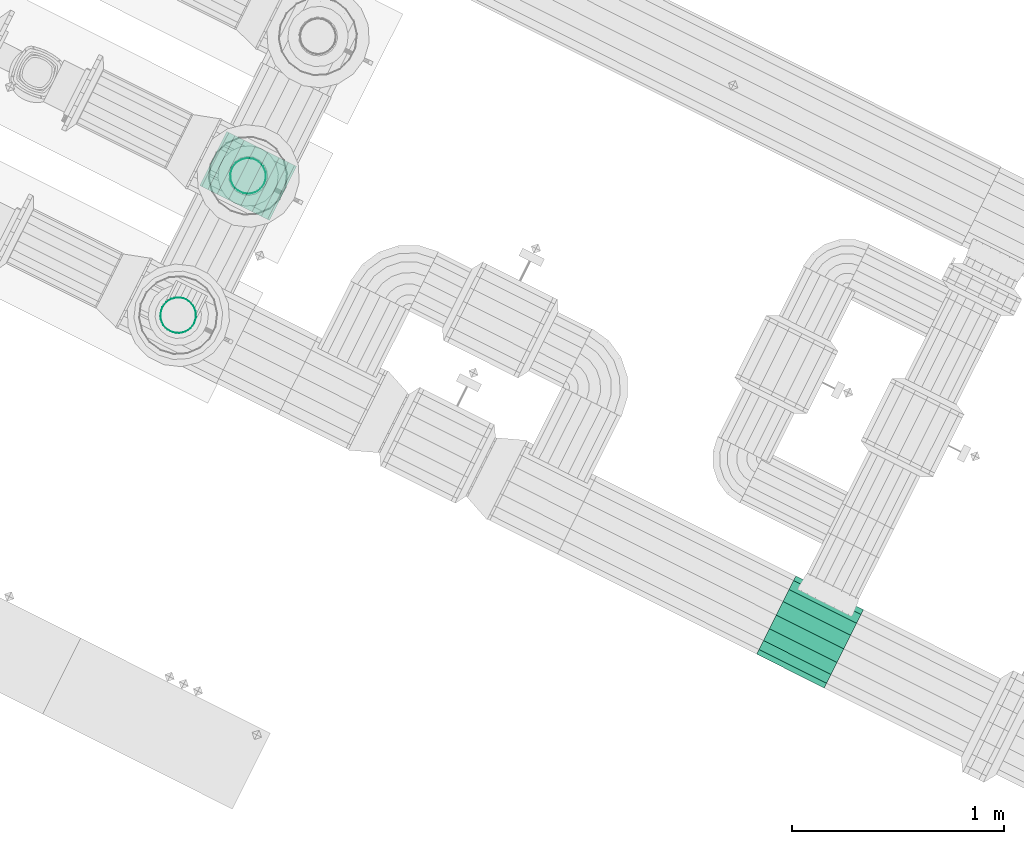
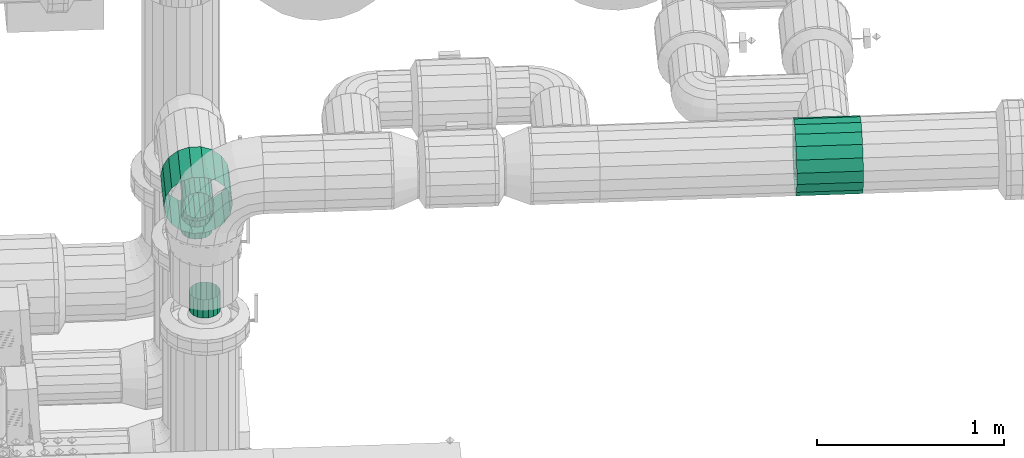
# One storey, part 24 of 152: 2 flow fittings, 2 flow segments.
"""IFC2X3 building model written with IfcOpenShell, lengths in metres."""

from ifc_helpers import new_model, si_unit, derived_unit, direction, frame, origin, place, context, subcontext, project, spatial, face_set, surface_model, source, transform, mapped, material, type_object, type_shapes, element, save


model = new_model("IFC2X3")

# Units and contexts
model_context = context("Model", 3, precision=5.2338327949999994e-05, world=origin(), true_north=direction((0.0, 1.0)))
body_context = subcontext(model_context, "Body", "Model", "MODEL_VIEW")
ifc_project = project(units=[si_unit("LENGTHUNIT", "METRE"), si_unit("AREAUNIT", "SQUARE_METRE"), si_unit("VOLUMEUNIT", "CUBIC_METRE"), si_unit("MASSUNIT", "GRAM", prefix="KILO"), si_unit("PLANEANGLEUNIT", "RADIAN"), derived_unit("THERMALTRANSMITTANCEUNIT", [(si_unit("MASSUNIT", "GRAM", prefix="KILO"), 1), (si_unit("THERMODYNAMICTEMPERATUREUNIT", "KELVIN"), -1), (si_unit("TIMEUNIT", "SECOND"), -3)])], contexts=[model_context])

# Site, building, storey
site_placement = place(None, frame((0.0, 0.0, 0.0), z_axis=(0.0, 0.0, 1.0), x_axis=(0.8939966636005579, -0.4480736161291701, 0.0)))
site = spatial("IfcSite", under=ifc_project, at=site_placement, Name="Default", CompositionType="ELEMENT")
building_placement = place(site_placement, origin())
building = spatial("IfcBuilding", under=site, at=building_placement, CompositionType="ELEMENT")
storey_placement = place(building_placement, frame((0.0, 0.0, 2.7499999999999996)))
storey = spatial("IfcBuildingStorey", under=building, at=storey_placement, Name="1. Obergeschoss", CompositionType="ELEMENT", Elevation=2.7499999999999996)

# Flow fitting
ifc_material = material(Name="IfcSurfaceStyle #9317")
distribution_element_type_1 = type_object("IfcDistributionElementType", Name="Abzweigstück 221421:Abzweigstück 221421", material=ifc_material)
shared_shape_1 = source(origin(), body_context, "Body", "SurfaceModel", [
    surface_model("IfcFaceBasedSurfaceModel", [(11.809964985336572, 6.734748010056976, 5.035640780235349), (11.804890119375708, 6.734748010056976, 5.064421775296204), (11.804890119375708, 6.448748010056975, 5.064421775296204), (11.809964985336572, 6.448748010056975, 5.035640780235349), (11.790277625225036, 6.734748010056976, 5.089731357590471), (11.790277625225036, 6.448748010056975, 5.089731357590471), (11.767889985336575, 6.734748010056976, 5.10851681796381), (11.767889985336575, 6.448748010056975, 5.10851681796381), (11.740427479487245, 6.734748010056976, 5.118512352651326), (11.740427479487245, 6.448748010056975, 5.118512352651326), (11.711202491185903, 6.734748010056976, 5.118512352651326), (11.711202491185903, 6.448748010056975, 5.118512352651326), (11.683739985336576, 6.734748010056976, 5.108516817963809), (11.683739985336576, 6.448748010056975, 5.108516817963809), (11.661352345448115, 6.734748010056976, 5.089731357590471), (11.661352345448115, 6.448748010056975, 5.089731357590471), (11.646739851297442, 6.734748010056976, 5.064421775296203), (11.646739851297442, 6.448748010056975, 5.064421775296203), (11.641664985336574, 6.734748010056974, 5.035640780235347), (11.641664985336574, 6.448748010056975, 5.035640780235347), (11.646739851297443, 6.734748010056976, 5.006859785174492), (11.646739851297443, 6.448748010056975, 5.006859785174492), (11.661352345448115, 6.734748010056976, 4.981550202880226), (11.661352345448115, 6.448748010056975, 4.981550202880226), (11.683739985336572, 6.734748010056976, 4.962764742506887), (11.683739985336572, 6.448748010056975, 4.962764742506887), (11.711202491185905, 6.734748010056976, 4.9527692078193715), (11.711202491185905, 6.448748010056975, 4.9527692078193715), (11.740427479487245, 6.734748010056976, 4.952769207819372), (11.740427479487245, 6.448748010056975, 4.952769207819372), (11.767889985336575, 6.734748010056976, 4.962764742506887), (11.767889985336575, 6.448748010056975, 4.962764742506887), (11.790277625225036, 6.734748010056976, 4.981550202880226), (11.790277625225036, 6.448748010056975, 4.981550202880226), (11.804890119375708, 6.734748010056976, 5.006859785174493), (11.804890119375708, 6.448748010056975, 5.006859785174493), (11.725814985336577, 6.507598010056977, 4.95149078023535), (11.69703399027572, 6.5126728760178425, 4.956565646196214), (11.697033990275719, 6.5126728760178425, 4.8926407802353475), (11.725814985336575, 6.507598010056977, 4.8926407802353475), (11.671724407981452, 6.527285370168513, 4.971178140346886), (11.671724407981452, 6.527285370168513, 4.8926407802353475), (11.652938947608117, 6.549673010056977, 4.993565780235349), (11.652938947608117, 6.549673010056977, 4.8926407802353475), (11.642943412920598, 6.5771355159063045, 5.021028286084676), (11.642943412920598, 6.577135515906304, 4.8926407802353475), (11.642943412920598, 6.6063605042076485, 5.021028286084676), (11.642943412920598, 6.6063605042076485, 4.8926407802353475), (11.652938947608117, 6.633823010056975, 4.993565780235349), (11.652938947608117, 6.633823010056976, 4.8926407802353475), (11.671724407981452, 6.656210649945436, 4.971178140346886), (11.671724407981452, 6.656210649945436, 4.8926407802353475), (11.69703399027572, 6.67082314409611, 4.956565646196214), (11.697033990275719, 6.6708231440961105, 4.8926407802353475), (11.725814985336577, 6.675898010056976, 4.95149078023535), (11.725814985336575, 6.675898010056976, 4.8926407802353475), (11.754595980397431, 6.670823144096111, 4.956565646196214), (11.754595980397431, 6.670823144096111, 4.8926407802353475), (11.779905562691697, 6.656210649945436, 4.971178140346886), (11.779905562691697, 6.656210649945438, 4.8926407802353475), (11.79869102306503, 6.633823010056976, 4.9935657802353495), (11.798691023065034, 6.633823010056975, 4.8926407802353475), (11.808686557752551, 6.6063605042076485, 5.021028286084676), (11.808686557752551, 6.6063605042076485, 4.8926407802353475), (11.808686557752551, 6.577135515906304, 5.021028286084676), (11.808686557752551, 6.577135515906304, 4.8926407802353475), (11.798691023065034, 6.549673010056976, 4.9935657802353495), (11.798691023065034, 6.549673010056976, 4.8926407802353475), (11.779905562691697, 6.527285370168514, 4.971178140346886), (11.779905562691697, 6.5272853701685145, 4.8926407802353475), (11.754595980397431, 6.5126728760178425, 4.956565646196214), (11.754595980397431, 6.5126728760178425, 4.8926407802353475), (11.909964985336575, 6.734748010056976, 5.035640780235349), (11.898859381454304, 6.734748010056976, 5.098623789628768), (11.898859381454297, 6.448748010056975, 5.098623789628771), (11.909964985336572, 6.448748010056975, 5.035640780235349), (11.866882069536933, 6.734748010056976, 5.154010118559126), (11.866882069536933, 6.448748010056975, 5.154010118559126), (11.817889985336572, 6.734748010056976, 5.195119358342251), (11.817889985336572, 6.448748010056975, 5.195119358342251), (11.75779229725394, 6.734748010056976, 5.216993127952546), (11.75779229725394, 6.448748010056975, 5.216993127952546), (11.693837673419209, 6.734748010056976, 5.216993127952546), (11.693837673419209, 6.448748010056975, 5.216993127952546), (11.633739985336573, 6.734748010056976, 5.195119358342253), (11.633739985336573, 6.448748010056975, 5.195119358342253), (11.584747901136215, 6.734748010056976, 5.154010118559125), (11.584747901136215, 6.448748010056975, 5.154010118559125), (11.552770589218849, 6.734748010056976, 5.0986237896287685), (11.552770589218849, 6.448748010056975, 5.0986237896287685), (11.541664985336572, 6.734748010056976, 5.0356407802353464), (11.541664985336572, 6.448748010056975, 5.0356407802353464), (11.552770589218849, 6.734748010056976, 4.972657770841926), (11.552770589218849, 6.448748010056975, 4.972657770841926), (11.584747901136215, 6.734748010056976, 4.917271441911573), (11.584747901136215, 6.448748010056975, 4.917271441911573), (11.633739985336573, 6.734748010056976, 4.8761622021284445), (11.633739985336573, 6.448748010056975, 4.8761622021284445), (11.69383767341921, 6.734748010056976, 4.854288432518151), (11.69383767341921, 6.448748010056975, 4.854288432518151), (11.75779229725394, 6.734748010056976, 4.854288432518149), (11.75779229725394, 6.448748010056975, 4.854288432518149), (11.817889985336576, 6.734748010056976, 4.876162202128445), (11.817889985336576, 6.448748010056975, 4.876162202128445), (11.866882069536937, 6.734748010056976, 4.917271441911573), (11.866882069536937, 6.448748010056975, 4.917271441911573), (11.898859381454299, 6.734748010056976, 4.972657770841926), (11.898859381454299, 6.448748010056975, 4.972657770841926)], [face_set([[[0, 1, 2, 3]], [[1, 4, 5, 2]], [[4, 6, 7, 5]], [[6, 8, 9, 7]], [[8, 10, 11, 9]], [[10, 12, 13, 11]], [[12, 14, 15, 13]], [[14, 16, 17, 15]], [[16, 18, 19, 17]], [[18, 20, 21, 19]], [[20, 22, 23, 21]], [[22, 24, 25, 23]], [[24, 26, 27, 25]], [[26, 28, 29, 27]], [[28, 30, 31, 29]], [[30, 32, 33, 31]], [[32, 34, 35, 33]], [[34, 0, 3, 35]], [[36, 37, 38, 39]], [[37, 40, 41, 38]], [[40, 42, 43, 41]], [[42, 44, 45, 43]], [[44, 46, 47, 45]], [[46, 48, 49, 47]], [[48, 50, 51, 49]], [[50, 52, 53, 51]], [[52, 54, 55, 53]], [[54, 56, 57, 55]], [[56, 58, 59, 57]], [[58, 60, 61, 59]], [[60, 62, 63, 61]], [[62, 64, 65, 63]], [[64, 66, 67, 65]], [[66, 68, 69, 67]], [[68, 70, 71, 69]], [[70, 36, 39, 71]], [[72, 73, 74, 75]], [[73, 76, 77, 74]], [[76, 78, 79, 77]], [[78, 80, 81, 79]], [[80, 82, 83, 81]], [[82, 84, 85, 83]], [[84, 86, 87, 85]], [[86, 88, 89, 87]], [[88, 90, 91, 89]], [[90, 92, 93, 91]], [[92, 94, 95, 93]], [[94, 96, 97, 95]], [[96, 98, 99, 97]], [[98, 100, 101, 99]], [[100, 102, 103, 101]], [[102, 104, 105, 103]], [[104, 106, 107, 105]], [[106, 72, 75, 107]]])]),
])
type_shapes(distribution_element_type_1, [shared_shape_1])
flow_fitting_1_placement = place(storey_placement, frame((0.0, 0.0, -2.7499999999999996)))
element("IfcFlowFitting", 1, at=flow_fitting_1_placement, inside=storey, type_object=distribution_element_type_1, material=ifc_material, Name="Abzweigstück", ObjectType="Abzweigstück", context=body_context, shape_type="MappedRepresentation", body=[
    mapped(shared_shape_1, transform((0.0, 0.0, 0.0), scale=1.0)),
])

# Flow segments
distribution_element_type_2 = type_object("IfcDistributionElementType", Name="Stahlrohr nach DIN 2448 249254:Stahlrohr nach DIN 2448 249254", material=ifc_material)
shared_shape_2 = source(origin(), body_context, "Body", "SurfaceModel", [
    surface_model("IfcFaceBasedSurfaceModel", [(11.641664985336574, 6.5917480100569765, 4.89264078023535), (11.646739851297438, 6.620529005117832, 4.89264078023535), (11.646739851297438, 6.620529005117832, 4.773303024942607), (11.641664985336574, 6.591748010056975, 4.773303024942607), (11.661352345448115, 6.645838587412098, 4.89264078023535), (11.661352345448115, 6.645838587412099, 4.773303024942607), (11.683739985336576, 6.6646240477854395, 4.89264078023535), (11.683739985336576, 6.664624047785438, 4.773303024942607), (11.711202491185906, 6.674619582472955, 4.89264078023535), (11.711202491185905, 6.674619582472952, 4.773303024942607), (11.740427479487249, 6.674619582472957, 4.89264078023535), (11.740427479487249, 6.674619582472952, 4.773303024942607), (11.767889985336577, 6.6646240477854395, 4.89264078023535), (11.767889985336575, 6.664624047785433, 4.773303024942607), (11.790277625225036, 6.645838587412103, 4.89264078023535), (11.790277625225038, 6.645838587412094, 4.773303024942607), (11.80489011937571, 6.6205290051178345, 4.89264078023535), (11.80489011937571, 6.620529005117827, 4.773303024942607), (11.809964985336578, 6.591748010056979, 4.8926407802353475), (11.809964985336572, 6.5917480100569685, 4.773303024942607), (11.80489011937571, 6.562967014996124, 4.89264078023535), (11.804890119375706, 6.562967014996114, 4.773303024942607), (11.790277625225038, 6.537657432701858, 4.89264078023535), (11.790277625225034, 6.537657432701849, 4.773303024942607), (11.767889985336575, 6.518871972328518, 4.89264078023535), (11.76788998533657, 6.51887197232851, 4.773303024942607), (11.740427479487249, 6.508876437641, 4.89264078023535), (11.740427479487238, 6.5088764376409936, 4.773303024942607), (11.711202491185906, 6.508876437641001, 4.89264078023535), (11.711202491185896, 6.508876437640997, 4.773303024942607), (11.683739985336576, 6.518871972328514, 4.89264078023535), (11.683739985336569, 6.518871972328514, 4.773303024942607), (11.661352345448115, 6.537657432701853, 4.89264078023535), (11.661352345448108, 6.537657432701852, 4.773303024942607), (11.646739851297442, 6.56296701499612, 4.89264078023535), (11.646739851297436, 6.5629670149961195, 4.773303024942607)], [face_set([[[0, 1, 2, 3]], [[1, 4, 5, 2]], [[4, 6, 7, 5]], [[6, 8, 9, 7]], [[8, 10, 11, 9]], [[10, 12, 13, 11]], [[12, 14, 15, 13]], [[14, 16, 17, 15]], [[16, 18, 19, 17]], [[18, 20, 21, 19]], [[20, 22, 23, 21]], [[22, 24, 25, 23]], [[24, 26, 27, 25]], [[26, 28, 29, 27]], [[28, 30, 31, 29]], [[30, 32, 33, 31]], [[32, 34, 35, 33]], [[34, 0, 3, 35]]])]),
])
type_shapes(distribution_element_type_2, [shared_shape_2])
flow_segment_1_placement = place(storey_placement, frame((0.0, 0.0, -2.7499999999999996)))
element("IfcFlowSegment", 2, at=flow_segment_1_placement, inside=storey, type_object=distribution_element_type_2, material=ifc_material, Name="Stahlrohr nach DIN 2448", ObjectType="Stahlrohr nach DIN 2448", context=body_context, shape_type="MappedRepresentation", body=[
    mapped(shared_shape_2, transform((0.0, 0.0, 0.0), scale=1.0)),
])
distribution_element_type_3 = type_object("IfcDistributionElementType", Name="Stahlrohr nach DIN 2448 249409:Stahlrohr nach DIN 2448 249409", material=ifc_material)
shared_shape_3 = source(origin(), body_context, "Body", "SurfaceModel", [
    surface_model("IfcFaceBasedSurfaceModel", [(11.641664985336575, 5.856787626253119, 4.89264078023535), (11.646739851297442, 5.8855686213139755, 4.89264078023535), (11.646739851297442, 5.8855686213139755, 4.773303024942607), (11.641664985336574, 5.856787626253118, 4.773303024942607), (11.661352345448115, 5.910878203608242, 4.89264078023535), (11.661352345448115, 5.910878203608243, 4.773303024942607), (11.683739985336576, 5.929663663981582, 4.89264078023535), (11.683739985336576, 5.92966366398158, 4.773303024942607), (11.711202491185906, 5.939659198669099, 4.89264078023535), (11.711202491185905, 5.939659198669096, 4.773303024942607), (11.740427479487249, 5.939659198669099, 4.89264078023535), (11.740427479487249, 5.939659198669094, 4.773303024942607), (11.767889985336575, 5.929663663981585, 4.89264078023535), (11.767889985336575, 5.929663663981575, 4.773303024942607), (11.790277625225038, 5.910878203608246, 4.89264078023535), (11.790277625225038, 5.910878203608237, 4.773303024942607), (11.80489011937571, 5.885568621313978, 4.89264078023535), (11.80489011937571, 5.885568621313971, 4.773303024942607), (11.809964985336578, 5.856787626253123, 4.8926407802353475), (11.809964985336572, 5.856787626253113, 4.773303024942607), (11.80489011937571, 5.8280066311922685, 4.89264078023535), (11.804890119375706, 5.828006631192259, 4.773303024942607), (11.790277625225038, 5.802697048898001, 4.89264078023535), (11.790277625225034, 5.8026970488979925, 4.773303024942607), (11.767889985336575, 5.783911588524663, 4.89264078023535), (11.76788998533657, 5.783911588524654, 4.773303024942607), (11.740427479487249, 5.7739160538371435, 4.89264078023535), (11.740427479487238, 5.773916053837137, 4.773303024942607), (11.711202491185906, 5.773916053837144, 4.89264078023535), (11.711202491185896, 5.77391605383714, 4.773303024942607), (11.683739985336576, 5.783911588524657, 4.89264078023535), (11.683739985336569, 5.783911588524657, 4.773303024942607), (11.661352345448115, 5.802697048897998, 4.89264078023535), (11.661352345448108, 5.802697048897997, 4.773303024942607), (11.646739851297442, 5.828006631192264, 4.89264078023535), (11.646739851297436, 5.828006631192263, 4.773303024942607)], [face_set([[[0, 1, 2, 3]], [[1, 4, 5, 2]], [[4, 6, 7, 5]], [[6, 8, 9, 7]], [[8, 10, 11, 9]], [[10, 12, 13, 11]], [[12, 14, 15, 13]], [[14, 16, 17, 15]], [[16, 18, 19, 17]], [[18, 20, 21, 19]], [[20, 22, 23, 21]], [[22, 24, 25, 23]], [[24, 26, 27, 25]], [[26, 28, 29, 27]], [[28, 30, 31, 29]], [[30, 32, 33, 31]], [[32, 34, 35, 33]], [[34, 0, 3, 35]]])]),
])
type_shapes(distribution_element_type_3, [shared_shape_3])
flow_segment_2_placement = place(storey_placement, frame((0.0, 0.0, -2.7499999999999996)))
element("IfcFlowSegment", 3, at=flow_segment_2_placement, inside=storey, type_object=distribution_element_type_3, material=ifc_material, Name="Stahlrohr nach DIN 2448", ObjectType="Stahlrohr nach DIN 2448", context=body_context, shape_type="MappedRepresentation", body=[
    mapped(shared_shape_3, transform((0.0, 0.0, 0.0), scale=1.0)),
])

# Flow fitting
distribution_element_type_4 = type_object("IfcDistributionElementType", Name="Abzweigstück 260012:Abzweigstück 260012", material=ifc_material)
shared_shape_4 = source(origin(), body_context, "Body", "SurfaceModel", [
    surface_model("IfcFaceBasedSurfaceModel", [(15.23524256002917, 5.85678762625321, 5.52609078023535), (15.23524256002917, 5.819319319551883, 5.532697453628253), (14.879242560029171, 5.819319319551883, 5.532697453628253), (14.879242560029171, 5.85678762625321, 5.52609078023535), (15.23524256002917, 5.786370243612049, 5.551720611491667), (14.879242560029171, 5.786370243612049, 5.551720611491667), (15.23524256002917, 5.761914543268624, 5.58086578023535), (14.879242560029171, 5.761914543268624, 5.58086578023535), (15.23524256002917, 5.748901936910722, 5.616617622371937), (14.879242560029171, 5.748901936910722, 5.616617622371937), (15.23524256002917, 5.748901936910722, 5.654663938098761), (14.879242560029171, 5.748901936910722, 5.654663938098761), (15.23524256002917, 5.761914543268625, 5.690415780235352), (14.879242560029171, 5.761914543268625, 5.690415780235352), (15.23524256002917, 5.786370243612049, 5.719560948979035), (14.879242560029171, 5.786370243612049, 5.719560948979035), (15.23524256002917, 5.819319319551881, 5.7385841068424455), (14.879242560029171, 5.819319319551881, 5.7385841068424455), (15.23524256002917, 5.856787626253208, 5.745190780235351), (14.879242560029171, 5.856787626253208, 5.745190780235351), (15.23524256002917, 5.894255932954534, 5.7385841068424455), (14.879242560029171, 5.894255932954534, 5.7385841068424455), (15.23524256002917, 5.927205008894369, 5.719560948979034), (14.879242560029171, 5.927205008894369, 5.719560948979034), (15.23524256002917, 5.9516607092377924, 5.690415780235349), (14.879242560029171, 5.9516607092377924, 5.690415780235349), (15.23524256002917, 5.964673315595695, 5.654663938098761), (14.879242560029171, 5.964673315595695, 5.654663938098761), (15.23524256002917, 5.964673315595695, 5.616617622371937), (14.879242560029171, 5.964673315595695, 5.616617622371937), (15.23524256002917, 5.951660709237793, 5.580865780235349), (14.879242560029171, 5.951660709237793, 5.580865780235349), (15.23524256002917, 5.92720500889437, 5.551720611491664), (14.879242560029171, 5.92720500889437, 5.551720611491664), (15.23524256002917, 5.894255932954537, 5.532697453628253), (14.879242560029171, 5.894255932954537, 5.532697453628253), (15.23524256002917, 5.856787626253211, 5.4260907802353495), (15.23524256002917, 5.785117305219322, 5.438728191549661), (14.879242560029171, 5.785117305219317, 5.438728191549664), (14.879242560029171, 5.856787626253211, 5.426090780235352), (15.23524256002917, 5.722091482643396, 5.475116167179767), (14.879242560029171, 5.722091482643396, 5.475116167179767), (15.23524256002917, 5.6753120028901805, 5.530865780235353), (14.879242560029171, 5.6753120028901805, 5.530865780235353), (15.23524256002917, 5.6504211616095, 5.599252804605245), (14.879242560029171, 5.6504211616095, 5.599252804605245), (15.23524256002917, 5.650421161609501, 5.6720287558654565), (14.879242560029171, 5.650421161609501, 5.6720287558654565), (15.23524256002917, 5.675312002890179, 5.74041578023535), (14.879242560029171, 5.675312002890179, 5.74041578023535), (15.23524256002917, 5.7220914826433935, 5.796165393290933), (14.879242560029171, 5.7220914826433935, 5.796165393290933), (15.23524256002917, 5.785117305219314, 5.832553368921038), (14.879242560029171, 5.785117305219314, 5.832553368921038), (15.23524256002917, 5.856787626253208, 5.845190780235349), (14.879242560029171, 5.856787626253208, 5.845190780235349), (15.23524256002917, 5.928457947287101, 5.832553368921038), (14.879242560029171, 5.928457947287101, 5.832553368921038), (15.23524256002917, 5.991483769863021, 5.7961653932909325), (14.879242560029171, 5.991483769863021, 5.7961653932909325), (15.23524256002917, 6.038263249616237, 5.740415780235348), (14.879242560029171, 6.038263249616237, 5.740415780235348), (15.23524256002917, 6.0631540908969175, 5.672028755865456), (14.879242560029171, 6.0631540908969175, 5.672028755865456), (15.23524256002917, 6.0631540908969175, 5.5992528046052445), (14.879242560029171, 6.0631540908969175, 5.5992528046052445), (15.23524256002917, 6.038263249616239, 5.53086578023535), (14.879242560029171, 6.038263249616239, 5.53086578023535), (15.23524256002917, 5.9914837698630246, 5.475116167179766), (14.879242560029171, 5.9914837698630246, 5.475116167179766), (15.23524256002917, 5.928457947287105, 5.438728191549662), (14.879242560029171, 5.928457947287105, 5.438728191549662), (15.012792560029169, 5.966337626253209, 5.63564078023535), (15.015473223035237, 5.9652776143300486, 5.650843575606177), (15.015473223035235, 6.008787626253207, 5.650843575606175), (15.012792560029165, 6.008787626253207, 5.63564078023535), (15.02319188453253, 5.962546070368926, 5.664212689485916), (15.023191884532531, 6.008787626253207, 5.664212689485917), (15.035017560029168, 5.959351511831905, 5.67413560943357), (15.035017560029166, 6.008787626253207, 5.674135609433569), (15.049523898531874, 5.957211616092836, 5.679415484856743), (15.049523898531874, 6.008787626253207, 5.679415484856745), (15.064961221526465, 5.957211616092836, 5.679415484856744), (15.064961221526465, 6.008787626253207, 5.679415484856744), (15.07946756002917, 5.959351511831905, 5.67413560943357), (15.07946756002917, 6.008787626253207, 5.67413560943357), (15.091293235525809, 5.962546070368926, 5.664212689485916), (15.091293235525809, 6.008787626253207, 5.664212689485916), (15.099011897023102, 5.9652776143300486, 5.650843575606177), (15.099011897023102, 6.008787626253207, 5.650843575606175), (15.101692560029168, 5.966337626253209, 5.63564078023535), (15.10169256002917, 6.008787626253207, 5.63564078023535), (15.099011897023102, 5.9652776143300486, 5.620437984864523), (15.099011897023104, 6.008787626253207, 5.620437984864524), (15.091293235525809, 5.962546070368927, 5.607068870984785), (15.091293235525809, 6.008787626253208, 5.607068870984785), (15.07946756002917, 5.959351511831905, 5.597145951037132), (15.07946756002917, 6.008787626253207, 5.597145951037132), (15.064961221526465, 5.957211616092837, 5.5918660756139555), (15.064961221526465, 6.008787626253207, 5.591866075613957), (15.049523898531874, 5.957211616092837, 5.591866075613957), (15.049523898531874, 6.008787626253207, 5.591866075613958), (15.035017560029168, 5.959351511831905, 5.597145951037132), (15.035017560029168, 6.008787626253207, 5.597145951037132), (15.023191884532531, 5.962546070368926, 5.607068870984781), (15.023191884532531, 6.008787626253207, 5.607068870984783), (15.015473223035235, 5.9652776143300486, 5.620437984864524), (15.015473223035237, 6.008787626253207, 5.620437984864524)], [face_set([[[0, 1, 2, 3]], [[1, 4, 5, 2]], [[4, 6, 7, 5]], [[6, 8, 9, 7]], [[8, 10, 11, 9]], [[10, 12, 13, 11]], [[12, 14, 15, 13]], [[14, 16, 17, 15]], [[16, 18, 19, 17]], [[18, 20, 21, 19]], [[20, 22, 23, 21]], [[22, 24, 25, 23]], [[24, 26, 27, 25]], [[26, 28, 29, 27]], [[28, 30, 31, 29]], [[30, 32, 33, 31]], [[32, 34, 35, 33]], [[34, 0, 3, 35]], [[36, 37, 38, 39]], [[37, 40, 41, 38]], [[40, 42, 43, 41]], [[42, 44, 45, 43]], [[44, 46, 47, 45]], [[46, 48, 49, 47]], [[48, 50, 51, 49]], [[50, 52, 53, 51]], [[52, 54, 55, 53]], [[54, 56, 57, 55]], [[56, 58, 59, 57]], [[58, 60, 61, 59]], [[60, 62, 63, 61]], [[62, 64, 65, 63]], [[64, 66, 67, 65]], [[66, 68, 69, 67]], [[68, 70, 71, 69]], [[70, 36, 39, 71]], [[72, 73, 74, 75]], [[73, 76, 77, 74]], [[76, 78, 79, 77]], [[78, 80, 81, 79]], [[80, 82, 83, 81]], [[82, 84, 85, 83]], [[84, 86, 87, 85]], [[86, 88, 89, 87]], [[88, 90, 91, 89]], [[90, 92, 93, 91]], [[92, 94, 95, 93]], [[94, 96, 97, 95]], [[96, 98, 99, 97]], [[98, 100, 101, 99]], [[100, 102, 103, 101]], [[102, 104, 105, 103]], [[104, 106, 107, 105]], [[106, 72, 75, 107]]])]),
])
type_shapes(distribution_element_type_4, [shared_shape_4])
flow_fitting_2_placement = place(storey_placement, frame((0.0, 0.0, -2.7499999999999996)))
element("IfcFlowFitting", 4, at=flow_fitting_2_placement, inside=storey, type_object=distribution_element_type_4, material=ifc_material, Name="Abzweigstück", ObjectType="Abzweigstück", context=body_context, shape_type="MappedRepresentation", body=[
    mapped(shared_shape_4, transform((0.0, 0.0, 0.0), scale=1.0)),
])

save(model, "model.ifc")
